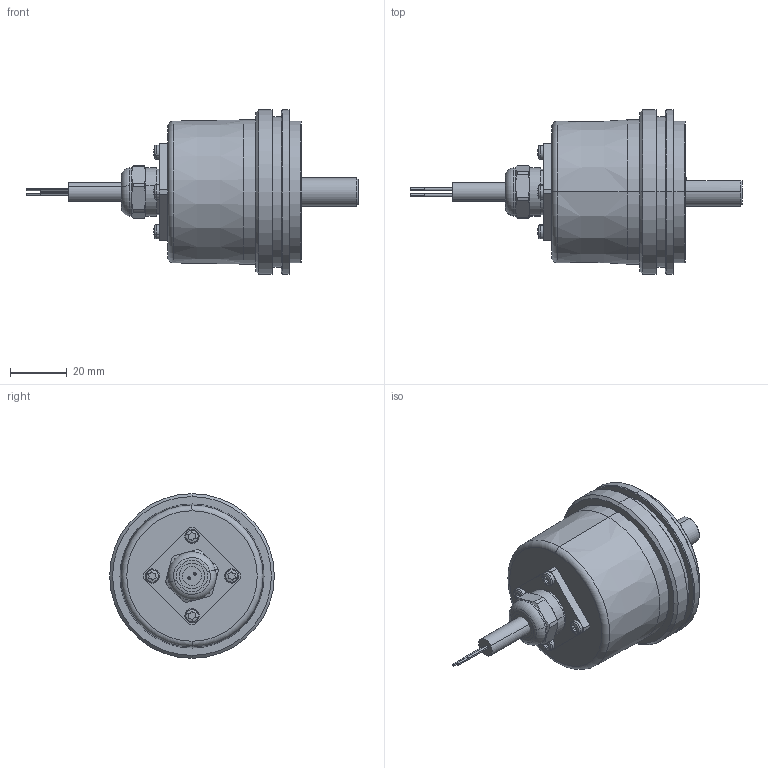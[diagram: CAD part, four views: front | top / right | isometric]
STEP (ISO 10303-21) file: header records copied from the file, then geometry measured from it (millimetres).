
FILE_DESCRIPTION (( 'STEP AP214' ), '1' );
FILE_NAME ('5000.B3X1.XXXX.STEP', '2011-01-04T08:42:59', ( 'admin' ), ( 'Fritz Kübler GmbH' ), 'SwSTEP 2.0', 'SolidWorks 2009', '' );
FILE_SCHEMA (( 'AUTOMOTIVE_DESIGN' ));
Length unit declared in the file: millimetre
Products named in the file (1): 5000.B3X1.XXXX
Bounding box: 117 x 58 x 58 mm (x, y, z)
Surface area: 18612.5 mm2 (no closed solid volume)
Topology: 0 solids, 13 shells, 203 faces, 510 edges, 330 vertices
Faces by surface type: plane 90, cylinder 57, cone 28, torus 20, sphere 8
Entity records: 8477 total; most frequent: CARTESIAN_POINT 1196, DIRECTION 1168, ORIENTED_EDGE 931, EDGE_CURVE 508, AXIS2_PLACEMENT_3D 478, VERTEX_POINT 330, CIRCLE 274, EDGE_LOOP 234
